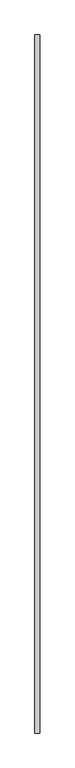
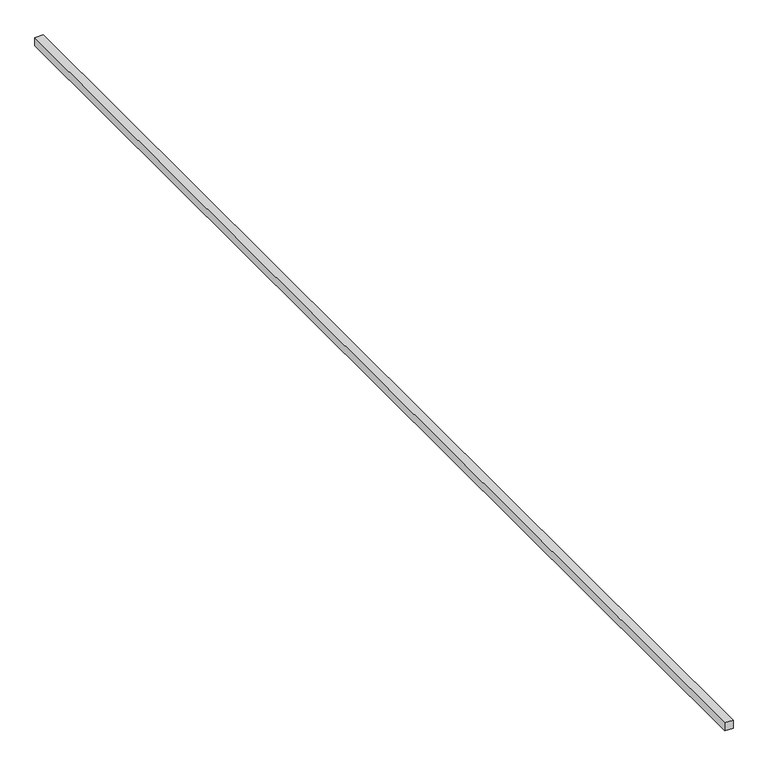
"""IFC4 building model written with IfcOpenShell, lengths in millimetres: proxy geometry, Modelos genéricos 227 : Modelos genéricos 224."""

from ifc_helpers import new_model, si_unit, frame, origin, place, context, project, spatial, polyline, outline, extrude, source, transform, mapped, element, save


def generic_models_2b0f7730(model_context):
    return source(origin(), model_context, "Body", "SweptSolid", [
        extrude(outline(polyline([(13073.4472467, 6228.6238165), (13073.4472467, -2331.3761835), (13013.4472467, -2331.3761835), (13013.4472467, 6228.6238165), (13073.4472467, 6228.6238165)])), frame((0.0, 0.0, 3050.0), z_axis=(0.0, 0.0, 1.0), x_axis=(1.0, 0.0, 0.0)), (0.0, 0.0, 1.0), 60.0),
    ])


if __name__ == "__main__":
    model = new_model("IFC4")
    model_context = context("Model", 3, world=origin())
    ifc_project = project(units=[si_unit("LENGTHUNIT", "METRE", prefix="MILLI")], contexts=[model_context])
    site = spatial("IfcSite", under=ifc_project)
    building = spatial("IfcBuilding", under=site)
    placement = place(None, origin())
    generic_models_shape = generic_models_2b0f7730(model_context)
    element("IfcBuildingElementProxy", 1, Name="Modelos genéricos 227 : Modelos genéricos 224", ObjectType="Modelos genéricos 227 : Modelos genéricos 224", at=placement, inside=building, context=model_context, shape_type="MappedRepresentation", body=[
        mapped(generic_models_shape, transform((0.0, 0.0, 0.0), x_axis=(1.0, 0.0, 0.0), y_axis=(0.0, 1.0, 0.0), z_axis=(0.0, 0.0, 1.0))),
    ])
    save(model, "model.ifc")
